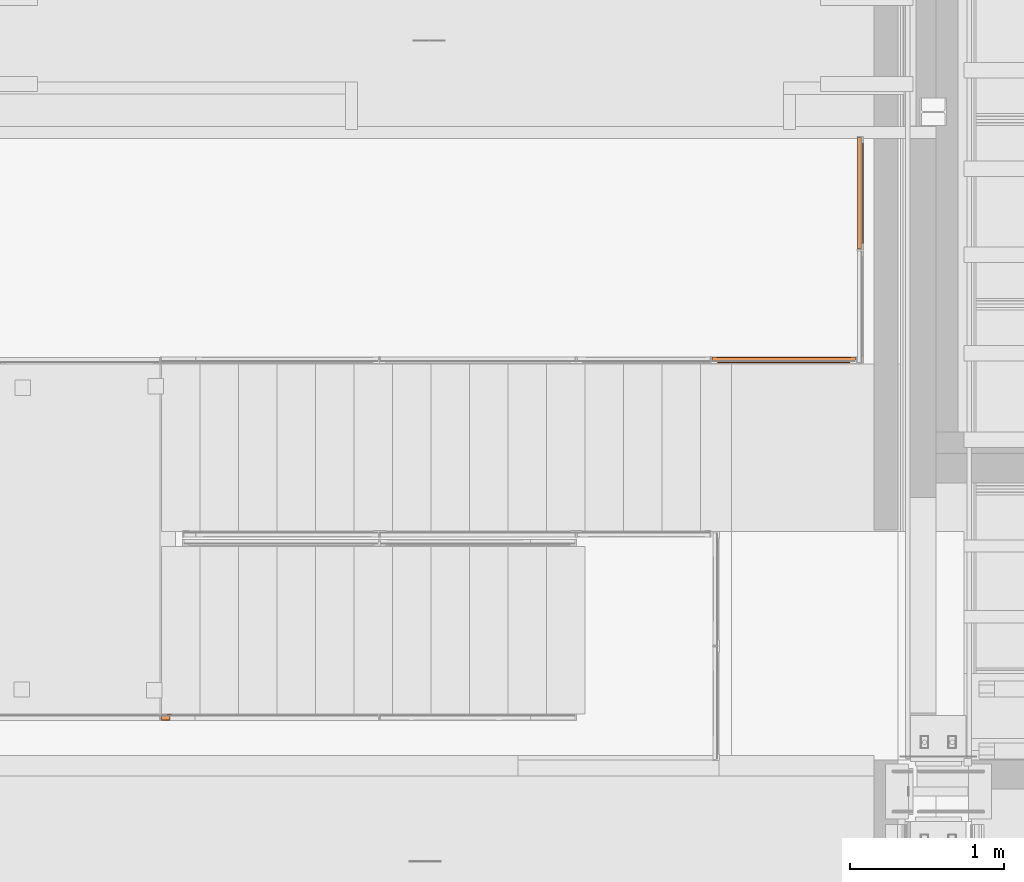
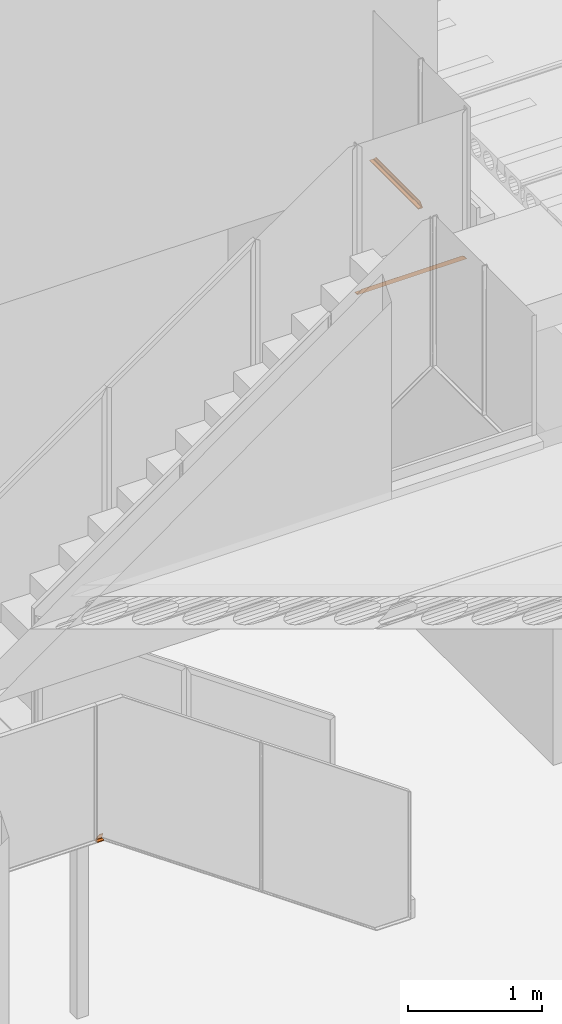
# One storey, part 230 of 230: 3 proxies.
"""IFC4X3_ADD2 building model written with IfcOpenShell, lengths in millimetres."""

from ifc_helpers import new_model, si_unit, direction, origin_with_axes, place, context, subcontext, project, spatial, triangles, source, transform, mapped, material, type_object, type_shapes, element, save


model = new_model("IFC4X3_ADD2")

# Units and contexts
model_context = context("Model", 3, precision=1e-05, world=origin_with_axes(), true_north=direction((0.0, 1.0)))
body_context = subcontext(model_context, "Body", "Model", "MODEL_VIEW")
ifc_project = project(units=[si_unit("LENGTHUNIT", "METRE", prefix="MILLI"), si_unit("AREAUNIT", "SQUARE_METRE"), si_unit("VOLUMEUNIT", "CUBIC_METRE"), si_unit("PLANEANGLEUNIT", "RADIAN"), si_unit("TIMEUNIT", "SECOND"), si_unit("MASSUNIT", "GRAM")], contexts=[model_context])

# Site, building, storey
site_placement = place(None, origin_with_axes())
site = spatial("IfcSite", under=ifc_project, at=site_placement, Name="Site", CompositionType="ELEMENT")
building_placement = place(site_placement, origin_with_axes())
building = spatial("IfcBuilding", under=site, at=building_placement, Name="IFC Building Story")
storey_placement = place(building_placement, origin_with_axes())
storey = spatial("IfcBuildingStorey", under=building, at=storey_placement, Name="ETAGE 00 (0)", Elevation=0.0)

# Proxies
ifc_material = material(Name="<Unnamed>")
building_element_proxy_type_1 = type_object("IfcBuildingElementProxyType", Name="93", PredefinedType="NOTDEFINED")
shared_shape_1 = source(origin_with_axes(), body_context, "Body", "Tessellation", [
    triangles([(39479.190234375, 3752.5000213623, 4029.99994354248), (39477.1903564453, 3752.5000213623, 4029.99994354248), (39479.190234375, 4407.50015716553, 4029.99994354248), (39477.1903564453, 4407.50015716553, 4029.99994354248), (39479.190234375, 3712.5001373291, 3990.00005950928), (39474.1905395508, 3723.50004730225, 4000.99996948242), (39474.032409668, 3722.41581115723, 3999.9157333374), (39474.1905395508, 3749.49991378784, 4027.00012664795), (39472.739465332, 3719.48924560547, 3996.98916778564), (39473.1766479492, 3720.13455505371, 3997.63447723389), (39473.7021972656, 3721.54115524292, 3999.0410774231), (39472.5952880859, 3719.27792129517, 3996.77784347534), (39474.4835449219, 3750.74925613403, 4028.24917831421), (39476.6462036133, 3752.5008934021, 4030.00081558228), (39475.818347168, 3752.27561645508, 4029.77553863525), (39474.925378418, 3751.48961791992, 4028.9895401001), (39475.023046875, 3751.65501480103, 4029.1549369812), (39468.1909057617, 3717.50012283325, 3995.00004501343), (39469.2047973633, 3717.49343719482, 3994.993359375), (39442.1878417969, 3717.50012283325, 3995.00004501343), (39440.0205322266, 3716.65308151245, 3994.15300369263), (39440.8158325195, 3717.27484588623, 3994.77505874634), (39439.1880249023, 3714.50001525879, 3991.99993743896), (39439.4856811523, 3715.74761352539, 3993.24753570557), (39439.1926757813, 3712.5001373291, 3990.00005950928), (39471.6790649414, 3718.39977722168, 3995.89969940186), (39470.9349243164, 3717.95038604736, 3995.45030822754), (39441.6483398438, 3717.50070419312, 3995.00062637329), (39470.1582275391, 3717.65941543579, 3995.15933761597), (39439.1880249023, 4447.500041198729, 3990.00005950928), (39439.1880249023, 4445.50016326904, 3991.99993743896), (39439.1880249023, 4263.31244659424, 3991.99993743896), (39439.1880249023, 3896.68744125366, 3991.99993743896), (39440.7042114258, 3897.73912124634, 3993.53152999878), (39442.1924926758, 4442.50005569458, 3994.99917297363), (39440.694909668, 4262.27006835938, 3993.51467056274), (39440.6484008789, 4080.00008926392, 3993.46961517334), (39441.5925292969, 4442.55179672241, 3994.9483039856), (39440.7646728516, 4442.83550033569, 3994.66460037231), (39439.94611816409, 4443.55900268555, 3993.94109802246), (39439.7786865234, 4443.70492401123, 3993.79517669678), (39439.93216552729, 3716.50076522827, 3994.00097808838), (39479.190234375, 4447.500041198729, 3990.00005950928), (39475.6834716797, 4244.77578735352, 4028.50643005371), (39475.6369628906, 4080.00008926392, 4028.46195602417), (39475.6974243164, 3915.23369293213, 4028.52038269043), (39476.5950439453, 4407.55189819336, 4029.94820251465), (39475.7625366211, 4407.83560180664, 4029.66449890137), (39474.3579711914, 4409.52823104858, 4027.97186965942), (39474.7812011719, 4408.70502548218, 4028.79507522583), (39474.1905395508, 4245.81264266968, 4027.00012664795), (39474.9346801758, 4408.56840591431, 4028.93140411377), (39474.1905395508, 3914.18753585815, 4027.00128936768), (39474.1905395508, 4410.49997406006, 4027.00012664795), (39474.1905395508, 4258.24996490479, 4000.99996948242), (39474.1905395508, 4436.50013122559, 4000.99996948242), (39472.5394775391, 4079.97945098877, 3996.81853866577), (39468.2606689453, 4262.360469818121, 3995.02213668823), (39472.7022583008, 4440.40628814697, 3997.0935218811), (39471.3581542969, 4441.64807281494, 3995.85202789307), (39472.3906494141, 4440.82690200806, 3996.67319869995), (39470.8651611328, 4441.88846511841, 3995.6116355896), (39473.67894287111, 4080.00939102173, 3998.89050521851), (39468.2606689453, 3897.6368019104, 3995.01981124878), (39470.4651855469, 4079.98875274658, 3995.94213867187), (39468.1909057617, 4080.00008926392, 3995.00004501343), (39470.3721679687, 4442.128276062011, 3995.371824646), (39469.31641845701, 4442.40791015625, 3995.09219055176), (39473.3719848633, 4439.51215667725, 3997.98794403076), (39474.0882202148, 4437.5448348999, 3999.95497512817), (39473.7254516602, 4259.53942108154, 3998.92393341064), (39468.1909057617, 4442.50005569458, 3995.00004501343)], [[1, 2, 3], [4, 3, 2], [1, 5, 6], [6, 5, 7], [1, 6, 8], [9, 10, 5], [7, 5, 11], [11, 5, 10], [5, 12, 9], [2, 1, 13], [14, 2, 15], [16, 15, 2], [17, 15, 16], [16, 2, 13], [1, 8, 13], [5, 18, 19], [20, 21, 22], [23, 24, 20], [24, 21, 20], [25, 23, 20], [5, 25, 18], [26, 12, 5], [27, 26, 5], [20, 18, 25], [20, 22, 28], [27, 5, 29], [19, 29, 5], [30, 31, 32], [30, 32, 25], [33, 23, 25], [33, 25, 32], [34, 28, 22], [34, 20, 28], [35, 36, 37], [37, 34, 20], [37, 20, 35], [34, 22, 21], [36, 38, 35], [36, 39, 38], [40, 36, 32], [32, 41, 40], [33, 42, 24], [33, 24, 23], [32, 36, 37], [37, 34, 33], [37, 33, 32], [42, 33, 34], [32, 31, 41], [36, 40, 39], [30, 25, 43], [5, 43, 25], [5, 1, 3], [3, 43, 5], [4, 44, 45], [45, 46, 2], [45, 2, 4], [2, 14, 46], [46, 14, 15], [46, 17, 16], [46, 15, 17], [44, 47, 4], [44, 48, 47], [49, 50, 51], [52, 44, 51], [51, 44, 45], [45, 46, 53], [45, 53, 51], [53, 16, 13], [53, 13, 8], [16, 53, 46], [51, 54, 49], [44, 52, 48], [6, 53, 8], [53, 6, 55], [55, 56, 54], [54, 51, 55], [55, 51, 53], [57, 58, 59], [60, 61, 58], [61, 59, 58], [58, 62, 60], [55, 6, 63], [64, 26, 27], [64, 12, 26], [64, 65, 57], [57, 9, 64], [63, 6, 7], [63, 7, 11], [58, 65, 66], [58, 67, 62], [58, 68, 67], [69, 70, 71], [59, 71, 57], [63, 71, 57], [57, 11, 63], [56, 55, 71], [71, 70, 56], [57, 11, 10], [57, 10, 9], [64, 27, 29], [19, 18, 64], [64, 29, 19], [66, 65, 64], [71, 59, 69], [58, 72, 68], [64, 9, 12], [63, 71, 55], [57, 65, 58], [20, 35, 66], [66, 35, 58], [20, 66, 64], [72, 58, 35], [64, 18, 20], [4, 49, 3], [48, 4, 47], [49, 4, 52], [52, 4, 48], [54, 56, 3], [54, 3, 49], [3, 56, 43], [56, 70, 43], [69, 59, 43], [70, 69, 43], [43, 59, 61], [62, 67, 43], [61, 60, 43], [72, 30, 43], [67, 68, 43], [62, 43, 60], [35, 38, 39], [35, 39, 40], [40, 41, 31], [30, 35, 31], [31, 35, 40], [35, 30, 72], [72, 43, 68]]),
])
type_shapes(building_element_proxy_type_1, [shared_shape_1])
proxy_1_placement = place(storey_placement, origin_with_axes())
element("IfcBuildingElementProxy", 1, at=proxy_1_placement, inside=storey, type_object=building_element_proxy_type_1, material=ifc_material, Name="47", ObjectType="47", context=body_context, shape_type="MappedRepresentation", body=[
    mapped(shared_shape_1, transform((0.0, 0.0, 0.0))),
])
building_element_proxy_type_2 = type_object("IfcBuildingElementProxyType", Name="109", PredefinedType="NOTDEFINED")
shared_shape_2 = source(origin_with_axes(), body_context, "Body", "Tessellation", [
    triangles([(38529.1900817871, 2977.49994277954, 4029.99994354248), (38529.1900817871, 2979.50011138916, 4029.99994354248), (38583.2518981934, 2979.50011138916, 4029.99994354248), (39286.062487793, 2979.50011138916, 4029.99994354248), (39394.1907714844, 2979.50011138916, 4029.99994354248), (39394.1907714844, 2977.49994277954, 4029.99994354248), (39395.8929931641, 2982.16884384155, 4028.296849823), (39394.6791137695, 2981.26308517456, 4029.51189193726), (39395.2279174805, 2981.67207183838, 4028.96308822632), (39394.2698364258, 2980.45237884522, 4029.92175064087), (39397.1905883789, 2982.49992828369, 4027.00012664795), (39423.18900146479, 2982.49992828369, 4000.99996948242), (39434.1883300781, 2977.49994277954, 3990.00005950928), (39425.1377197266, 2982.93943634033, 3999.05154190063), (39425.3516601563, 2982.98739852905, 3998.83847351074), (39427.1748046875, 2983.96815261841, 3997.01300354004), (39428.6584350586, 2985.87036209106, 3995.53315200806), (39429.03515625, 2986.61363067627, 3995.15294265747), (39428.1747436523, 2984.92681503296, 3996.01509933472), (39429.1886352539, 2988.49985275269, 3995.00004501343), (39429.1886352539, 3014.50000991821, 3995.00004501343), (39434.1883300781, 3017.50854721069, 3990.00005950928), (39429.681628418, 3016.26443710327, 3994.50966796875), (39430.22578125, 3016.6716796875, 3993.9626083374), (39430.9001586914, 3017.17135848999, 3993.29084701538), (39432.1884521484, 3017.49982681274, 3991.99993743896), (39429.2677001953, 3015.45140533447, 3994.92127075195), (39079.66578369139, 3017.49866409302, 3991.99993743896), (38608.3224609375, 3017.49692001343, 3991.99993743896), (38489.1901977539, 3017.49110641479, 3990.00005950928), (38549.6934814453, 3017.49692001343, 3991.99993743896), (38491.1900756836, 3017.4966293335, 3991.99993743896), (39373.6850463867, 3017.49982681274, 3991.99993743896), (39315.0560668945, 3017.49953613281, 3991.99993743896), (38494.1898925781, 3014.50000991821, 3995.00004501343), (38551.2189697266, 3015.99061660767, 3993.56263275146), (38552.6281860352, 3014.50000991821, 3995.00004501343), (38494.1387329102, 3015.09561309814, 3994.9483039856), (38493.8550292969, 3015.92608566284, 3994.66460037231), (38493.131817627, 3016.74376831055, 3993.94109802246), (38608.4154785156, 3015.96125793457, 3993.53763427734), (39312.3166992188, 3014.50030059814, 3995.00033569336), (39372.1363037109, 3015.95253753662, 3993.57338790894), (39314.9490966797, 3015.96183929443, 3993.56583023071), (38492.9853149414, 3016.90887451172, 3993.79517669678), (38489.1901977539, 2977.49994277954, 3990.00005950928), (38581.8473327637, 2980.993334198, 4028.563984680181), (38529.1389221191, 2980.09542388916, 4029.94820251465), (38528.5226806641, 2981.41511077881, 4029.33370513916), (38527.162298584, 2982.32988052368, 4027.97186965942), (38634.66736450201, 2980.96252212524, 4028.53782348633), (38634.5720214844, 2982.50021896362, 4027.00012664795), (39288.8065063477, 2982.49992828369, 4027.00012664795), (39341.5102661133, 2980.9538017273, 4028.57444915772), (39288.6948852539, 2980.96310348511, 4028.56689147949), (39343.0590087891, 2982.49992828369, 4027.00012664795), (38580.319519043, 2982.49992828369, 4027.00012664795), (38526.1902648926, 2982.49992828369, 4027.00012664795), (38500.1895263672, 2982.49992828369, 4000.99996948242), (38615.5638793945, 2982.49992828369, 4000.99996948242), (38730.9405578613, 2982.49992828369, 4000.99996948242), (38846.3149108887, 2982.49992828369, 4000.99996948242), (39077.0659423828, 2982.49992828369, 4000.99996948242), (39192.4402954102, 2982.49992828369, 4000.99996948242), (39078.3728393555, 2984.78612594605, 3997.27403411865), (38961.689263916, 2985.39161224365, 3998.0332901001), (38961.689263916, 2988.49985275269, 3995.00004501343), (39079.2658081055, 2988.49985275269, 3995.00004501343), (38610.701385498, 2985.88518676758, 3995.49361953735), (38495.041003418, 2985.3314414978, 3995.85202789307), (38494.8014831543, 2985.82559738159, 3995.6116355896), (38495.8618835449, 2984.30098114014, 3996.67319869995), (38727.3198486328, 2985.94099731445, 3995.42065887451), (38728.35234375, 2984.10360946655, 3996.90138244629), (38496.2827880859, 2983.98617477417, 3997.0935218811), (38613.8197998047, 2982.91589126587, 3998.96927947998), (38499.1454040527, 2982.60137557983, 3999.95497512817), (38497.1780822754, 2983.31702957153, 3997.98794403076), (39195.0587402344, 2984.12017822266, 3996.86795425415), (39313.2747802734, 2988.39230117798, 3995.03231048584), (39137.9412963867, 2988.30655059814, 3995.05149536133), (39195.8168334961, 2986.28399963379, 3995.92150039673), (39137.9692016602, 2988.49985275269, 3995.00004501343), (39080.0099487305, 2986.60258483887, 3996.16043930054), (39193.7006835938, 2982.99757232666, 3998.94166488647), (38845.0498718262, 2984.77159194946, 3997.27926635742), (38729.6476135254, 2982.96443481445, 3998.93149108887), (38785.4442077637, 2988.31410827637, 3995.06602935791), (38843.396484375, 2986.53863525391, 3996.17526397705), (38610.0804931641, 2988.49985275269, 3995.00004501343), (38494.5619628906, 2986.31829986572, 3995.371824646), (38494.1898925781, 2988.49985275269, 3995.00004501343), (38726.8152282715, 2988.49985275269, 3995.00004501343), (38844.1103942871, 2988.49985275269, 3995.00004501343), (38785.4093261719, 2988.49985275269, 3995.00004501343), (39196.565625, 2988.49985275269, 3995.00004501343)], [[1, 2, 3], [1, 3, 4], [4, 5, 6], [4, 6, 1], [7, 6, 5], [8, 9, 5], [8, 5, 10], [7, 5, 9], [11, 12, 6], [11, 6, 7], [6, 12, 13], [14, 15, 13], [12, 14, 13], [13, 15, 16], [17, 18, 13], [16, 19, 13], [20, 21, 22], [20, 22, 13], [17, 13, 19], [23, 24, 21], [25, 21, 24], [22, 21, 26], [21, 25, 26], [27, 23, 21], [20, 13, 18], [28, 29, 30], [31, 32, 30], [31, 30, 29], [30, 22, 28], [22, 26, 33], [34, 28, 22], [33, 34, 22], [35, 36, 37], [36, 35, 38], [36, 38, 39], [36, 39, 40], [41, 37, 28], [29, 41, 28], [28, 42, 34], [42, 28, 37], [23, 27, 43], [43, 27, 21], [43, 21, 42], [42, 44, 43], [24, 43, 33], [33, 25, 24], [31, 40, 45], [31, 45, 32], [29, 36, 31], [36, 29, 41], [41, 37, 36], [40, 31, 36], [33, 26, 25], [43, 24, 23], [34, 44, 43], [43, 33, 34], [34, 44, 42], [22, 30, 13], [46, 13, 30], [46, 1, 6], [6, 13, 46], [2, 47, 3], [47, 2, 48], [47, 48, 49], [47, 49, 50], [51, 3, 4], [52, 4, 53], [4, 52, 51], [8, 10, 54], [54, 10, 5], [54, 5, 4], [4, 55, 54], [9, 54, 56], [56, 7, 9], [57, 50, 58], [50, 57, 47], [52, 47, 57], [47, 52, 51], [51, 3, 47], [56, 11, 7], [54, 9, 8], [53, 55, 54], [54, 56, 53], [53, 55, 4], [57, 59, 60], [52, 60, 61], [59, 57, 58], [57, 60, 52], [61, 62, 52], [53, 63, 64], [53, 64, 12], [62, 53, 52], [62, 63, 53], [53, 12, 56], [12, 11, 56], [65, 66, 67], [67, 68, 65], [63, 62, 66], [69, 70, 71], [69, 72, 70], [69, 73, 74], [74, 75, 69], [76, 59, 77], [76, 77, 78], [79, 80, 16], [19, 16, 80], [80, 17, 19], [65, 81, 79], [81, 82, 79], [83, 84, 68], [82, 81, 83], [80, 18, 17], [12, 64, 85], [64, 63, 65], [65, 85, 64], [16, 15, 79], [14, 85, 79], [79, 15, 14], [86, 61, 87], [86, 87, 74], [76, 78, 75], [75, 74, 76], [87, 60, 76], [66, 62, 86], [88, 89, 86], [86, 74, 88], [90, 71, 91], [90, 91, 92], [93, 69, 90], [67, 86, 94], [86, 89, 94], [88, 89, 95], [95, 73, 88], [95, 94, 89], [95, 73, 93], [67, 66, 86], [69, 93, 73], [71, 90, 69], [88, 74, 73], [60, 87, 61], [76, 74, 87], [61, 86, 62], [65, 79, 85], [85, 14, 12], [80, 20, 18], [80, 82, 96], [83, 96, 82], [83, 81, 84], [84, 65, 81], [65, 84, 68], [79, 82, 80], [59, 76, 60], [69, 75, 72], [66, 65, 63], [92, 35, 37], [94, 37, 67], [95, 37, 94], [92, 37, 90], [93, 90, 37], [95, 93, 37], [68, 67, 42], [68, 42, 83], [67, 37, 42], [80, 42, 21], [83, 42, 96], [96, 42, 80], [21, 20, 80], [46, 59, 1], [59, 46, 77], [78, 77, 46], [75, 78, 46], [46, 72, 75], [2, 49, 48], [50, 2, 1], [2, 50, 49], [50, 1, 58], [1, 59, 58], [39, 35, 40], [32, 40, 35], [40, 32, 45], [30, 32, 35], [38, 35, 39], [70, 72, 46], [70, 46, 71], [91, 46, 92], [35, 92, 30], [46, 91, 71], [92, 46, 30]]),
])
type_shapes(building_element_proxy_type_2, [shared_shape_2])
proxy_2_placement = place(storey_placement, origin_with_axes())
element("IfcBuildingElementProxy", 2, at=proxy_2_placement, inside=storey, type_object=building_element_proxy_type_2, material=ifc_material, Name="55", ObjectType="55", context=body_context, shape_type="MappedRepresentation", body=[
    mapped(shared_shape_2, transform((0.0, 0.0, 0.0))),
])
building_element_proxy_type_3 = type_object("IfcBuildingElementProxyType", Name="189", PredefinedType="NOTDEFINED")
shared_shape_3 = source(origin_with_axes(), body_context, "Body", "Tessellation", [
    triangles([(34917.04312133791, 657.3446147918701, 1672.52232971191), (34919.5197143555, 660.271616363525, 1674.99994010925), (34917.5686706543, 657.5428585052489, 1673.04787902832), (34918.1035217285, 657.749095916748, 1673.58316612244), (34918.573260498, 658.0983478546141, 1674.0523235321), (34916.5198974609, 657.2716541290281, 1671.99997787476), (34918.326763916, 657.8816459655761, 1673.80669898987), (34919.3057739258, 659.000909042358, 1674.78614501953), (34918.94067993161, 658.423328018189, 1674.42046966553), (34914.5200195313, 657.2716541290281, 1669.9999546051), (34919.394140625, 659.2046756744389, 1674.87291297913), (34919.491809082, 659.5920066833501, 1674.96985473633), (34919.5220397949, 659.816847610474, 1675.00153884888), (34919.5197143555, 686.271628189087, 1674.99994010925), (34914.5200195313, 697.271683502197, 1669.9999546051), (34919.5034362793, 686.549227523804, 1674.98322601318), (34919.5894775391, 687.6298301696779, 1675.06810455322), (34919.5057617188, 686.976236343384, 1674.98424339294), (34919.7057495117, 688.190842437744, 1675.18466720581), (34919.6173828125, 687.8478401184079, 1675.09600982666), (34920.0359619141, 689.009687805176, 1675.51444358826), (34919.9545715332, 688.809700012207, 1675.43377990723), (34920.584765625, 689.8036800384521, 1676.06426467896), (34920.2382751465, 689.3669334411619, 1675.71791954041), (34921.1917053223, 690.494044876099, 1676.67076835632), (34920.9452087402, 690.257867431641, 1676.42456245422), (34922.3148925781, 691.303443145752, 1677.79293823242), (34921.3963439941, 690.642436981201, 1676.87656974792), (34923.4101745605, 691.774925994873, 1678.88894691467), (34922.4846496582, 691.397914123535, 1677.96298599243), (34924.479876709, 692.089441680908, 1679.95850372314), (34923.9589782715, 691.998313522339, 1679.43789596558), (34951.5200866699, 692.271552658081, 1707.00002174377), (34925.521673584, 692.271552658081, 1681.00000991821), (34954.5199035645, 697.271683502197, 1709.99998397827), (34952.5828125, 692.551622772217, 1708.06303825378), (34952.0061035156, 692.335647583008, 1707.48473052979), (34953.5804260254, 693.122518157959, 1709.06007041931), (34953.1176635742, 692.76222038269, 1708.59774398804), (34954.5199035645, 695.2716602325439, 1709.99998397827), (34953.2781188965, 692.859888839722, 1708.7581993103), (34953.9152893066, 693.413634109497, 1709.39493370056), (34954.4896728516, 694.6087646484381, 1709.96829986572), (34954.3827026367, 694.201958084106, 1709.86176567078), (34954.3082885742, 694.024788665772, 1709.78706092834), (34954.5199035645, 694.824885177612, 1709.99867591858), (34974.3605529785, 657.381240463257, 1672.54136924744), (34974.1907958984, 657.2716541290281, 1671.99997787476), (34974.46054687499, 657.445916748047, 1672.86126251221), (34974.537286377, 657.5383529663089, 1673.10630569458), (34974.7698303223, 657.946903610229, 1673.85030097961), (34974.6954162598, 657.8146442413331, 1673.61019935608), (34974.8465698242, 658.1455833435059, 1674.09330940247), (34974.9698181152, 658.575789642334, 1674.4873260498), (34975.0419067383, 658.896845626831, 1674.71449241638), (34975.0651611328, 659.0713989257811, 1674.7862903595), (34975.107019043, 659.3995765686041, 1674.92145652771), (34975.1209716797, 659.636771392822, 1674.9695640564), (34975.132598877, 660.271616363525, 1674.99994010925), (34975.132598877, 686.271628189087, 1674.99994010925), (34973.5629272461, 657.2716541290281, 1669.9999546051), (34973.5629272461, 697.271683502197, 1669.9999546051), (34975.1395751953, 687.372142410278, 1675.02333984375), (34975.1488769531, 687.542771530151, 1675.0550239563), (34975.1651550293, 687.819062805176, 1675.10618362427), (34975.2837524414, 688.8559181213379, 1675.4840675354), (34975.2628234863, 688.6767139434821, 1675.41880989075), (34975.3511901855, 689.241941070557, 1675.69989738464), (34975.4558349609, 689.657758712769, 1676.03330726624), (34975.6093139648, 690.268477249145, 1676.52310295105), (34975.6604736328, 690.423118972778, 1676.68530235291), (34975.999987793, 691.2056293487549, 1677.77186393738), (34976.2813659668, 691.6912101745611, 1678.66657676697), (34976.0604492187, 691.343702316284, 1677.96327667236), (34976.6720397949, 692.0775238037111, 1679.91388435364), (34976.7627319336, 692.165599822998, 1680.19816932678), (34977.0138793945, 692.271552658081, 1681.00000991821), (34985.3412780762, 692.37939491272, 1707.54446525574), (34985.4366210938, 692.439420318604, 1707.84793510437), (34985.5133605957, 692.532583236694, 1708.09762916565), (34986.1109985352, 695.2716602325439, 1709.99998397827), (34985.1691955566, 692.271552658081, 1707.00002174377), (34985.6761413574, 692.8151241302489, 1708.61082458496), (34985.8249694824, 693.147225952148, 1709.09160919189), (34985.9482177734, 693.5793216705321, 1709.48286437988), (34986.0226318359, 693.911859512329, 1709.71555366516), (34986.0412353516, 694.0749309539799, 1709.78124732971), (34985.7528808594, 692.9545051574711, 1708.85906524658), (34986.0993713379, 694.639722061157, 1709.96466636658), (34986.1109985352, 697.271683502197, 1709.99998397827), (34986.0854187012, 694.424473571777, 1709.92237243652)], [[1, 2, 3], [4, 3, 2], [2, 5, 4], [2, 1, 6], [5, 7, 4], [8, 9, 2], [2, 9, 5], [6, 10, 2], [11, 8, 12], [2, 13, 12], [12, 8, 2], [14, 2, 10], [15, 16, 14], [17, 18, 15], [19, 20, 15], [17, 15, 20], [15, 21, 22], [23, 24, 15], [21, 15, 24], [22, 19, 15], [16, 15, 18], [14, 10, 15], [25, 26, 15], [27, 28, 15], [29, 30, 15], [28, 25, 15], [31, 32, 15], [33, 34, 35], [15, 34, 31], [32, 29, 15], [35, 36, 37], [35, 37, 33], [35, 34, 15], [26, 23, 15], [38, 39, 40], [41, 39, 38], [40, 42, 38], [43, 44, 45], [45, 40, 43], [46, 43, 40], [42, 40, 45], [40, 39, 36], [36, 35, 40], [1, 47, 48], [3, 49, 47], [47, 1, 3], [50, 49, 4], [3, 4, 49], [5, 51, 52], [52, 7, 5], [5, 53, 51], [52, 4, 7], [9, 54, 53], [54, 9, 8], [8, 55, 54], [8, 56, 55], [12, 57, 56], [56, 11, 12], [12, 58, 57], [56, 8, 11], [58, 13, 2], [2, 59, 58], [58, 12, 13], [53, 5, 9], [4, 52, 50], [48, 6, 1], [2, 14, 59], [60, 59, 14], [48, 61, 6], [10, 6, 61], [10, 61, 15], [62, 15, 61], [63, 14, 16], [18, 17, 63], [63, 16, 18], [63, 60, 14], [20, 19, 64], [22, 65, 64], [64, 19, 22], [64, 17, 20], [23, 66, 67], [67, 24, 23], [67, 21, 24], [67, 22, 21], [23, 68, 66], [26, 25, 69], [28, 70, 69], [69, 25, 28], [69, 68, 26], [23, 26, 68], [28, 71, 70], [27, 72, 71], [73, 74, 29], [29, 74, 72], [72, 30, 29], [31, 75, 73], [73, 32, 31], [34, 76, 75], [75, 31, 34], [34, 77, 76], [73, 29, 32], [28, 27, 71], [22, 67, 65], [17, 64, 63], [48, 47, 59], [50, 47, 49], [59, 61, 48], [52, 47, 50], [47, 52, 59], [52, 53, 59], [55, 56, 54], [53, 54, 59], [53, 52, 51], [59, 54, 56], [58, 59, 56], [61, 59, 60], [61, 60, 62], [60, 63, 62], [62, 63, 64], [56, 57, 58], [67, 66, 62], [64, 65, 62], [66, 68, 62], [70, 62, 69], [69, 62, 68], [67, 62, 65], [62, 70, 71], [78, 79, 80], [78, 81, 82], [80, 83, 78], [83, 81, 78], [84, 85, 83], [86, 87, 85], [85, 81, 83], [84, 83, 88], [85, 87, 81], [71, 72, 62], [62, 72, 74], [74, 73, 62], [75, 62, 73], [62, 75, 76], [87, 89, 81], [77, 90, 62], [77, 82, 90], [90, 82, 81], [77, 62, 76], [87, 91, 89], [33, 82, 77], [77, 34, 33], [35, 90, 40], [81, 40, 90], [37, 78, 82], [36, 79, 78], [78, 37, 36], [39, 83, 80], [38, 88, 83], [83, 41, 38], [38, 84, 88], [42, 85, 84], [85, 42, 45], [45, 86, 85], [45, 87, 86], [43, 91, 87], [87, 44, 43], [43, 89, 91], [87, 45, 44], [89, 46, 40], [40, 81, 89], [89, 43, 46], [84, 38, 42], [83, 39, 41], [80, 79, 39], [36, 39, 79], [82, 33, 37], [35, 15, 62], [62, 90, 35]]),
])
type_shapes(building_element_proxy_type_3, [shared_shape_3])
proxy_3_placement = place(storey_placement, origin_with_axes())
element("IfcBuildingElementProxy", 3, at=proxy_3_placement, inside=storey, type_object=building_element_proxy_type_3, material=ifc_material, Name="104", ObjectType="104", context=body_context, shape_type="MappedRepresentation", body=[
    mapped(shared_shape_3, transform((0.0, 0.0, 0.0))),
])

save(model, "model.ifc")
